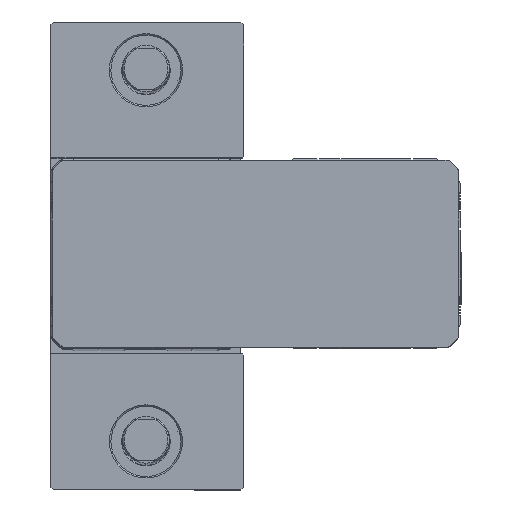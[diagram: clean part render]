
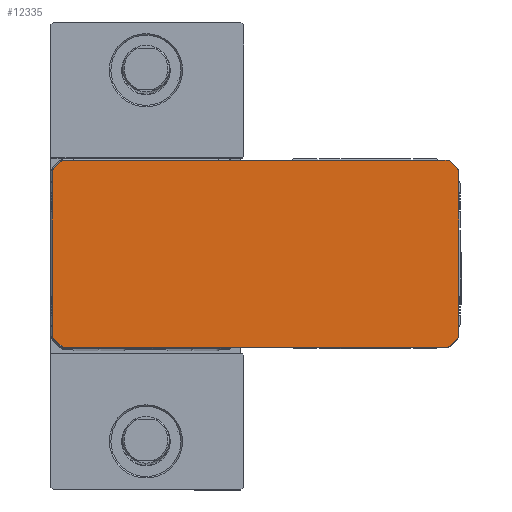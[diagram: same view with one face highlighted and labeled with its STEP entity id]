
A CAD part, top view. The second image highlights one B-rep face of the part: STEP entity #12335.
In plain terms, the highlighted planar face has unit normal (0, 0, 1).
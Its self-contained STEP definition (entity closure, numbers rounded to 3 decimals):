
#284 = CARTESIAN_POINT ( 'NONE',  ( 106.561, -29.061, 452.5 ) ) ;
#317 = CIRCLE ( 'NONE', #38687, 1.5 ) ;
#428 = VECTOR ( 'NONE', #11023, 1000. ) ;
#613 = CARTESIAN_POINT ( 'NONE',  ( -29.061, 31.561, 452.5 ) ) ;
#1034 = DIRECTION ( 'NONE',  ( 1., 0., 0. ) ) ;
#1894 = DIRECTION ( 'NONE',  ( 1., 0., 0. ) ) ;
#2122 = ORIENTED_EDGE ( 'NONE', *, *, #18526, .T. ) ;
#2542 = EDGE_CURVE ( 'NONE', #43975, #28471, #28761, .T. ) ;
#2696 = VECTOR ( 'NONE', #21613, 1000. ) ;
#2749 = CARTESIAN_POINT ( 'NONE',  ( 107., -28., 452.5 ) ) ;
#3248 = EDGE_CURVE ( 'NONE', #27285, #36302, #27057, .T. ) ;
#3293 = CARTESIAN_POINT ( 'NONE',  ( -28., 30.5, 452.5 ) ) ;
#3407 = ORIENTED_EDGE ( 'NONE', *, *, #34962, .T. ) ;
#3462 = DIRECTION ( 'NONE',  ( 1., 0., 0. ) ) ;
#3814 = LINE ( 'NONE', #18160, #12053 ) ;
#5094 = VECTOR ( 'NONE', #17871, 1000. ) ;
#5670 = CARTESIAN_POINT ( 'NONE',  ( 105.5, -28., 452.5 ) ) ;
#6115 = EDGE_CURVE ( 'NONE', #23393, #27492, #12070, .T. ) ;
#6243 = VERTEX_POINT ( 'NONE', #284 ) ;
#6348 = CARTESIAN_POINT ( 'NONE',  ( -31.561, 29.061, 452.5 ) ) ;
#6383 = ORIENTED_EDGE ( 'NONE', *, *, #24480, .T. ) ;
#6779 = CARTESIAN_POINT ( 'NONE',  ( -31.561, -29.061, 452.5 ) ) ;
#6804 = DIRECTION ( 'NONE',  ( 1., 0., 0. ) ) ;
#7377 = EDGE_CURVE ( 'NONE', #17625, #32302, #15237, .T. ) ;
#7463 = CARTESIAN_POINT ( 'NONE',  ( 106.561, 29.061, 452.5 ) ) ;
#7586 = LINE ( 'NONE', #45371, #43789 ) ;
#7809 = AXIS2_PLACEMENT_3D ( 'NONE', #3293, #27755, #6804 ) ;
#8912 = ORIENTED_EDGE ( 'NONE', *, *, #7377, .T. ) ;
#9198 = DIRECTION ( 'NONE',  ( 1., 0., 0. ) ) ;
#10160 = CARTESIAN_POINT ( 'NONE',  ( -28., -30.5, 452.5 ) ) ;
#10181 = VECTOR ( 'NONE', #27215, 1000. ) ;
#10836 = ORIENTED_EDGE ( 'NONE', *, *, #43323, .T. ) ;
#11023 = DIRECTION ( 'NONE',  ( -0.707, 0.707, 0. ) ) ;
#12013 = LINE ( 'NONE', #32007, #2696 ) ;
#12053 = VECTOR ( 'NONE', #14796, 1000. ) ;
#12070 = LINE ( 'NONE', #27559, #22495 ) ;
#12335 = ADVANCED_FACE ( 'NONE', ( #44688 ), #15966, .T. ) ;
#12541 = VERTEX_POINT ( 'NONE', #17173 ) ;
#13101 = DIRECTION ( 'NONE',  ( 0., 0., 1. ) ) ;
#13648 = VERTEX_POINT ( 'NONE', #37894 ) ;
#13680 = DIRECTION ( 'NONE',  ( 1., 0., 0. ) ) ;
#13989 = CARTESIAN_POINT ( 'NONE',  ( 107., -28., 452.5 ) ) ;
#13995 = AXIS2_PLACEMENT_3D ( 'NONE', #5670, #30160, #9198 ) ;
#14038 = ORIENTED_EDGE ( 'NONE', *, *, #25436, .T. ) ;
#14206 = CARTESIAN_POINT ( 'NONE',  ( -28., -32., 452.5 ) ) ;
#14796 = DIRECTION ( 'NONE',  ( -1., 0., 0. ) ) ;
#15237 = CIRCLE ( 'NONE', #33785, 1.5 ) ;
#15320 = ORIENTED_EDGE ( 'NONE', *, *, #17379, .T. ) ;
#15966 = PLANE ( 'NONE',  #19332 ) ;
#16410 = CARTESIAN_POINT ( 'NONE',  ( 107., 28., 452.5 ) ) ;
#16532 = AXIS2_PLACEMENT_3D ( 'NONE', #40496, #19542, #44068 ) ;
#17173 = CARTESIAN_POINT ( 'NONE',  ( 104.061, 31.561, 452.5 ) ) ;
#17363 = DIRECTION ( 'NONE',  ( 0.707, -0.707, 0. ) ) ;
#17379 = EDGE_CURVE ( 'NONE', #36302, #25298, #23462, .T. ) ;
#17426 = ORIENTED_EDGE ( 'NONE', *, *, #22589, .T. ) ;
#17625 = VERTEX_POINT ( 'NONE', #39685 ) ;
#17871 = DIRECTION ( 'NONE',  ( 1., 0., 0. ) ) ;
#18160 = CARTESIAN_POINT ( 'NONE',  ( 103., 32., 452.5 ) ) ;
#18526 = EDGE_CURVE ( 'NONE', #27492, #13648, #37043, .T. ) ;
#19332 = AXIS2_PLACEMENT_3D ( 'NONE', #40420, #43997, #22983 ) ;
#19542 = DIRECTION ( 'NONE',  ( 0., 0., 1. ) ) ;
#19648 = EDGE_CURVE ( 'NONE', #28471, #21925, #317, .T. ) ;
#20020 = AXIS2_PLACEMENT_3D ( 'NONE', #10160, #34643, #13680 ) ;
#21208 = DIRECTION ( 'NONE',  ( 0.707, 0.707, 0. ) ) ;
#21613 = DIRECTION ( 'NONE',  ( 0., -1., 0. ) ) ;
#21925 = VERTEX_POINT ( 'NONE', #26787 ) ;
#22086 = DIRECTION ( 'NONE',  ( 0., 0., 1. ) ) ;
#22368 = VECTOR ( 'NONE', #17363, 1000. ) ;
#22495 = VECTOR ( 'NONE', #31084, 1000. ) ;
#22589 = EDGE_CURVE ( 'NONE', #12541, #42643, #33010, .T. ) ;
#22787 = CARTESIAN_POINT ( 'NONE',  ( -32., -28., 452.5 ) ) ;
#22885 = DIRECTION ( 'NONE',  ( 0., 0., 1. ) ) ;
#22983 = DIRECTION ( 'NONE',  ( 1., 0., 0. ) ) ;
#23393 = VERTEX_POINT ( 'NONE', #613 ) ;
#23462 = LINE ( 'NONE', #6779, #22368 ) ;
#24431 = DIRECTION ( 'NONE',  ( 0., 0., 1. ) ) ;
#24480 = EDGE_CURVE ( 'NONE', #32302, #6243, #7586, .T. ) ;
#25298 = VERTEX_POINT ( 'NONE', #41677 ) ;
#25436 = EDGE_CURVE ( 'NONE', #13648, #27285, #12013, .T. ) ;
#25728 = AXIS2_PLACEMENT_3D ( 'NONE', #45403, #24431, #3462 ) ;
#25830 = CARTESIAN_POINT ( 'NONE',  ( -28., -32., 452.5 ) ) ;
#25984 = CIRCLE ( 'NONE', #7809, 1.5 ) ;
#26787 = CARTESIAN_POINT ( 'NONE',  ( 106.561, 29.061, 452.5 ) ) ;
#27057 = CIRCLE ( 'NONE', #37758, 1.5 ) ;
#27170 = ORIENTED_EDGE ( 'NONE', *, *, #29769, .T. ) ;
#27215 = DIRECTION ( 'NONE',  ( 0., 1., 0. ) ) ;
#27285 = VERTEX_POINT ( 'NONE', #22787 ) ;
#27492 = VERTEX_POINT ( 'NONE', #6348 ) ;
#27559 = CARTESIAN_POINT ( 'NONE',  ( -29.061, 31.561, 452.5 ) ) ;
#27755 = DIRECTION ( 'NONE',  ( 0., 0., 1. ) ) ;
#27807 = CARTESIAN_POINT ( 'NONE',  ( 103., 32., 452.5 ) ) ;
#27997 = CIRCLE ( 'NONE', #20020, 1.5 ) ;
#28356 = LINE ( 'NONE', #7463, #428 ) ;
#28471 = VERTEX_POINT ( 'NONE', #16410 ) ;
#28761 = LINE ( 'NONE', #2749, #10181 ) ;
#29111 = ORIENTED_EDGE ( 'NONE', *, *, #6115, .T. ) ;
#29279 = CARTESIAN_POINT ( 'NONE',  ( -28., 32., 452.5 ) ) ;
#29769 = EDGE_CURVE ( 'NONE', #25298, #39379, #27997, .T. ) ;
#30160 = DIRECTION ( 'NONE',  ( 0., 0., 1. ) ) ;
#31084 = DIRECTION ( 'NONE',  ( -0.707, -0.707, 0. ) ) ;
#32007 = CARTESIAN_POINT ( 'NONE',  ( -32., 28., 452.5 ) ) ;
#32251 = CIRCLE ( 'NONE', #13995, 1.5 ) ;
#32302 = VERTEX_POINT ( 'NONE', #32737 ) ;
#32737 = CARTESIAN_POINT ( 'NONE',  ( 104.061, -31.561, 452.5 ) ) ;
#33010 = CIRCLE ( 'NONE', #16532, 1.5 ) ;
#33038 = LINE ( 'NONE', #14206, #5094 ) ;
#33785 = AXIS2_PLACEMENT_3D ( 'NONE', #43040, #22086, #1034 ) ;
#34071 = CARTESIAN_POINT ( 'NONE',  ( 105.5, 28., 452.5 ) ) ;
#34643 = DIRECTION ( 'NONE',  ( 0., 0., 1. ) ) ;
#34962 = EDGE_CURVE ( 'NONE', #42643, #45296, #3814, .T. ) ;
#35065 = EDGE_LOOP ( 'NONE', ( #42325, #15320, #27170, #38071, #8912, #6383, #37638, #39979, #37231, #40006, #17426, #3407, #10836, #29111, #2122, #14038 ) ) ;
#35607 = EDGE_CURVE ( 'NONE', #6243, #43975, #32251, .T. ) ;
#35894 = EDGE_CURVE ( 'NONE', #21925, #12541, #28356, .T. ) ;
#36302 = VERTEX_POINT ( 'NONE', #37755 ) ;
#37043 = CIRCLE ( 'NONE', #25728, 1.5 ) ;
#37231 = ORIENTED_EDGE ( 'NONE', *, *, #19648, .T. ) ;
#37591 = DIRECTION ( 'NONE',  ( 1., 0., 0. ) ) ;
#37638 = ORIENTED_EDGE ( 'NONE', *, *, #35607, .T. ) ;
#37755 = CARTESIAN_POINT ( 'NONE',  ( -31.561, -29.061, 452.5 ) ) ;
#37758 = AXIS2_PLACEMENT_3D ( 'NONE', #43888, #22885, #1894 ) ;
#37894 = CARTESIAN_POINT ( 'NONE',  ( -32., 28., 452.5 ) ) ;
#38071 = ORIENTED_EDGE ( 'NONE', *, *, #38106, .T. ) ;
#38106 = EDGE_CURVE ( 'NONE', #39379, #17625, #33038, .T. ) ;
#38687 = AXIS2_PLACEMENT_3D ( 'NONE', #34071, #13101, #37591 ) ;
#39379 = VERTEX_POINT ( 'NONE', #25830 ) ;
#39685 = CARTESIAN_POINT ( 'NONE',  ( 103., -32., 452.5 ) ) ;
#39979 = ORIENTED_EDGE ( 'NONE', *, *, #2542, .T. ) ;
#40006 = ORIENTED_EDGE ( 'NONE', *, *, #35894, .T. ) ;
#40420 = CARTESIAN_POINT ( 'NONE',  ( -30.5, -28., 452.5 ) ) ;
#40496 = CARTESIAN_POINT ( 'NONE',  ( 103., 30.5, 452.5 ) ) ;
#41677 = CARTESIAN_POINT ( 'NONE',  ( -29.061, -31.561, 452.5 ) ) ;
#42325 = ORIENTED_EDGE ( 'NONE', *, *, #3248, .T. ) ;
#42643 = VERTEX_POINT ( 'NONE', #27807 ) ;
#43040 = CARTESIAN_POINT ( 'NONE',  ( 103., -30.5, 452.5 ) ) ;
#43323 = EDGE_CURVE ( 'NONE', #45296, #23393, #25984, .T. ) ;
#43789 = VECTOR ( 'NONE', #21208, 1000. ) ;
#43888 = CARTESIAN_POINT ( 'NONE',  ( -30.5, -28., 452.5 ) ) ;
#43975 = VERTEX_POINT ( 'NONE', #13989 ) ;
#43997 = DIRECTION ( 'NONE',  ( 0., 0., 1. ) ) ;
#44068 = DIRECTION ( 'NONE',  ( 1., 0., 0. ) ) ;
#44688 = FACE_OUTER_BOUND ( 'NONE', #35065, .T. ) ;
#45296 = VERTEX_POINT ( 'NONE', #29279 ) ;
#45371 = CARTESIAN_POINT ( 'NONE',  ( 104.061, -31.561, 452.5 ) ) ;
#45403 = CARTESIAN_POINT ( 'NONE',  ( -30.5, 28., 452.5 ) ) ;
